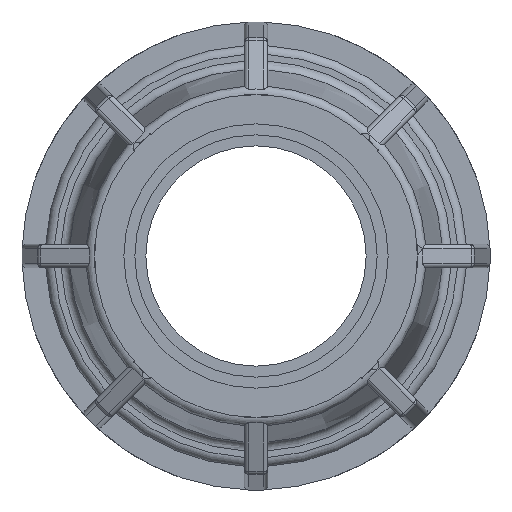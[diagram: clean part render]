
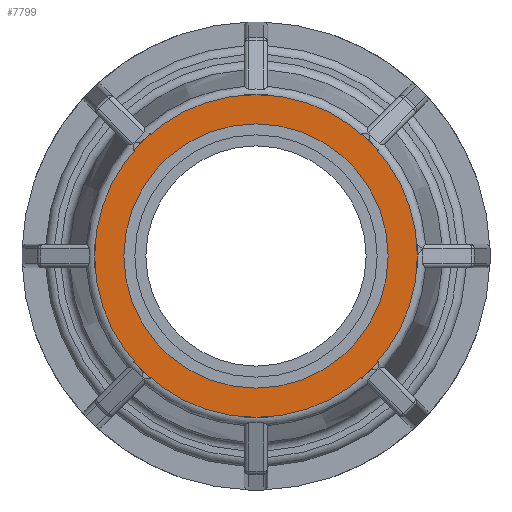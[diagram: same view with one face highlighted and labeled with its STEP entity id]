
A CAD part, left-side view. The second image highlights one B-rep face of the part: STEP entity #7799.
In plain terms, the highlighted planar face has unit normal (-1, 0, 0).
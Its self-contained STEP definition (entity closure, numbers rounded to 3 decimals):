
#1465=PLANE('',#8515);
#1602=FACE_BOUND('',#2399,.T.);
#1871=FACE_OUTER_BOUND('',#2398,.T.);
#2398=EDGE_LOOP('',(#6137,#6138,#6139,#6140,#6141,#6142,#6143,#6144));
#2399=EDGE_LOOP('',(#6145));
#2832=CIRCLE('',#8380,11.722);
#2833=CIRCLE('',#8381,11.722);
#2834=CIRCLE('',#8382,11.722);
#2835=CIRCLE('',#8383,11.722);
#2836=CIRCLE('',#8384,11.722);
#2837=CIRCLE('',#8385,11.722);
#2838=CIRCLE('',#8386,11.722);
#2839=CIRCLE('',#8387,11.722);
#2901=CIRCLE('',#8516,9.6);
#3139=VERTEX_POINT('',#11424);
#3175=VERTEX_POINT('',#11659);
#3211=VERTEX_POINT('',#11896);
#3247=VERTEX_POINT('',#12131);
#3283=VERTEX_POINT('',#12368);
#3319=VERTEX_POINT('',#12603);
#3355=VERTEX_POINT('',#12840);
#3436=VERTEX_POINT('',#13516);
#3472=VERTEX_POINT('',#13852);
#4298=EDGE_CURVE('',#3436,#3139,#2832,.T.);
#4299=EDGE_CURVE('',#3139,#3175,#2833,.T.);
#4300=EDGE_CURVE('',#3175,#3211,#2834,.T.);
#4301=EDGE_CURVE('',#3211,#3247,#2835,.T.);
#4302=EDGE_CURVE('',#3247,#3283,#2836,.T.);
#4303=EDGE_CURVE('',#3283,#3319,#2837,.T.);
#4304=EDGE_CURVE('',#3319,#3355,#2838,.T.);
#4305=EDGE_CURVE('',#3355,#3436,#2839,.T.);
#4409=EDGE_CURVE('',#3472,#3472,#2901,.T.);
#6137=ORIENTED_EDGE('',*,*,#4298,.F.);
#6138=ORIENTED_EDGE('',*,*,#4305,.F.);
#6139=ORIENTED_EDGE('',*,*,#4304,.F.);
#6140=ORIENTED_EDGE('',*,*,#4303,.F.);
#6141=ORIENTED_EDGE('',*,*,#4302,.F.);
#6142=ORIENTED_EDGE('',*,*,#4301,.F.);
#6143=ORIENTED_EDGE('',*,*,#4300,.F.);
#6144=ORIENTED_EDGE('',*,*,#4299,.F.);
#6145=ORIENTED_EDGE('',*,*,#4409,.F.);
#7799=ADVANCED_FACE('',(#1871,#1602),#1465,.T.);
#8380=AXIS2_PLACEMENT_3D('',#13517,#9827,#9828);
#8381=AXIS2_PLACEMENT_3D('',#13518,#9829,#9830);
#8382=AXIS2_PLACEMENT_3D('',#13519,#9831,#9832);
#8383=AXIS2_PLACEMENT_3D('',#13520,#9833,#9834);
#8384=AXIS2_PLACEMENT_3D('',#13521,#9835,#9836);
#8385=AXIS2_PLACEMENT_3D('',#13522,#9837,#9838);
#8386=AXIS2_PLACEMENT_3D('',#13523,#9839,#9840);
#8387=AXIS2_PLACEMENT_3D('',#13524,#9841,#9842);
#8515=AXIS2_PLACEMENT_3D('',#13851,#10125,#10126);
#8516=AXIS2_PLACEMENT_3D('',#13853,#10127,#10128);
#9827=DIRECTION('center_axis',(1.,0.,0.));
#9828=DIRECTION('ref_axis',(0.,1.,0.));
#9829=DIRECTION('center_axis',(1.,0.,0.));
#9830=DIRECTION('ref_axis',(0.,1.,0.));
#9831=DIRECTION('center_axis',(1.,0.,0.));
#9832=DIRECTION('ref_axis',(0.,1.,0.));
#9833=DIRECTION('center_axis',(1.,0.,0.));
#9834=DIRECTION('ref_axis',(0.,1.,0.));
#9835=DIRECTION('center_axis',(1.,0.,0.));
#9836=DIRECTION('ref_axis',(0.,1.,0.));
#9837=DIRECTION('center_axis',(1.,0.,0.));
#9838=DIRECTION('ref_axis',(0.,1.,0.));
#9839=DIRECTION('center_axis',(1.,0.,0.));
#9840=DIRECTION('ref_axis',(0.,1.,0.));
#9841=DIRECTION('center_axis',(1.,0.,0.));
#9842=DIRECTION('ref_axis',(0.,1.,0.));
#10125=DIRECTION('center_axis',(-1.,0.,0.));
#10126=DIRECTION('ref_axis',(0.,0.,-1.));
#10127=DIRECTION('center_axis',(-1.,0.,0.));
#10128=DIRECTION('ref_axis',(0.,0.,-1.));
#11424=CARTESIAN_POINT('',(-34.92,-8.289,-8.289));
#11659=CARTESIAN_POINT('',(-34.92,0.,-11.722));
#11896=CARTESIAN_POINT('',(-34.92,8.289,-8.289));
#12131=CARTESIAN_POINT('',(-34.92,11.722,0.));
#12368=CARTESIAN_POINT('',(-34.92,8.289,8.289));
#12603=CARTESIAN_POINT('',(-34.92,0.,11.722));
#12840=CARTESIAN_POINT('',(-34.92,-8.289,8.289));
#13516=CARTESIAN_POINT('',(-34.92,-11.722,0.));
#13517=CARTESIAN_POINT('Origin',(-34.92,0.,0.));
#13518=CARTESIAN_POINT('Origin',(-34.92,0.,0.));
#13519=CARTESIAN_POINT('Origin',(-34.92,0.,0.));
#13520=CARTESIAN_POINT('Origin',(-34.92,0.,0.));
#13521=CARTESIAN_POINT('Origin',(-34.92,0.,0.));
#13522=CARTESIAN_POINT('Origin',(-34.92,0.,0.));
#13523=CARTESIAN_POINT('Origin',(-34.92,0.,0.));
#13524=CARTESIAN_POINT('Origin',(-34.92,0.,0.));
#13851=CARTESIAN_POINT('Origin',(-34.92,-9.6,0.));
#13852=CARTESIAN_POINT('',(-34.92,-9.6,0.));
#13853=CARTESIAN_POINT('Origin',(-34.92,0.,0.));
